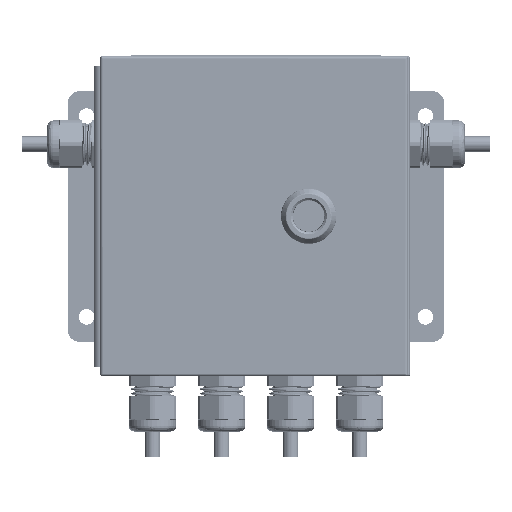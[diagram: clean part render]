
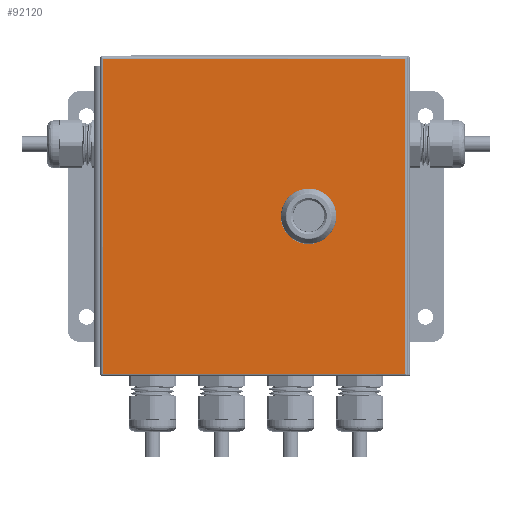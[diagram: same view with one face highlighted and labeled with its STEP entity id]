
A CAD part, top view. The second image highlights one B-rep face of the part: STEP entity #92120.
In plain terms, the highlighted planar face has unit normal (0, 0, 1).
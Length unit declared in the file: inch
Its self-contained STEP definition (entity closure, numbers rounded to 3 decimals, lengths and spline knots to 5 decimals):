
#7067 = EDGE_CURVE ( 'NONE', #46660, #320158, #34988, .T. ) ;
#11172 = LINE ( 'NONE', #134994, #61998 ) ;
#15342 = DIRECTION ( 'NONE',  ( 1., 0., 0. ) ) ;
#15706 = CARTESIAN_POINT ( 'NONE',  ( 1.483, 0.19957, 0. ) ) ;
#19851 = VECTOR ( 'NONE', #100422, 39.37008 ) ;
#22603 = CARTESIAN_POINT ( 'NONE',  ( 0.88793, 0.3955, 0. ) ) ;
#25659 = VERTEX_POINT ( 'NONE', #15706 ) ;
#29265 = AXIS2_PLACEMENT_3D ( 'NONE', #355505, #74623, #182291 ) ;
#32491 = LINE ( 'NONE', #460744, #19851 ) ;
#34662 = DIRECTION ( 'NONE',  ( 0., 0., 1. ) ) ;
#34988 = CIRCLE ( 'NONE', #94755, 0.443 ) ;
#35318 = ORIENTED_EDGE ( 'NONE', *, *, #286808, .F. ) ;
#39646 = CARTESIAN_POINT ( 'NONE',  ( 1.0875, 0., 0. ) ) ;
#43006 = AXIS2_PLACEMENT_3D ( 'NONE', #39646, #74748, #212862 ) ;
#44403 = CARTESIAN_POINT ( 'NONE',  ( 3.0095, 3.1345, 0. ) ) ;
#44766 = VERTEX_POINT ( 'NONE', #175414 ) ;
#46660 = VERTEX_POINT ( 'NONE', #91382 ) ;
#48999 = EDGE_CURVE ( 'NONE', #320158, #226410, #109613, .T. ) ;
#50461 = CARTESIAN_POINT ( 'NONE',  ( 0.88793, 0.3955, 0. ) ) ;
#61940 = VECTOR ( 'NONE', #329512, 39.37008 ) ;
#61998 = VECTOR ( 'NONE', #174700, 39.37008 ) ;
#62010 = PLANE ( 'NONE',  #301143 ) ;
#69780 = DIRECTION ( 'NONE',  ( 1., 0., 0. ) ) ;
#70704 = LINE ( 'NONE', #435661, #292743 ) ;
#72178 = CARTESIAN_POINT ( 'NONE',  ( 0.88793, -0.3955, 0. ) ) ;
#74623 = DIRECTION ( 'NONE',  ( 0., 0., 1. ) ) ;
#74748 = DIRECTION ( 'NONE',  ( 0., 0., 1. ) ) ;
#90213 = CARTESIAN_POINT ( 'NONE',  ( 0., 0., 0. ) ) ;
#91382 = CARTESIAN_POINT ( 'NONE',  ( 0.692, -0.19957, 0. ) ) ;
#92120 = ADVANCED_FACE ( 'NONE', ( #265767, #303182 ), #62010, .T. ) ;
#94755 = AXIS2_PLACEMENT_3D ( 'NONE', #327100, #34662, #69780 ) ;
#100422 = DIRECTION ( 'NONE',  ( 0., -1., 0. ) ) ;
#109613 = LINE ( 'NONE', #72178, #61940 ) ;
#125710 = LINE ( 'NONE', #22603, #221055 ) ;
#134994 = CARTESIAN_POINT ( 'NONE',  ( -3.0095, 3.1345, 0. ) ) ;
#135266 = DIRECTION ( 'NONE',  ( 0., 0., 1. ) ) ;
#139639 = CARTESIAN_POINT ( 'NONE',  ( 1.483, -0.19957, 0. ) ) ;
#143682 = CARTESIAN_POINT ( 'NONE',  ( 0.88793, -0.3955, 0. ) ) ;
#167939 = ORIENTED_EDGE ( 'NONE', *, *, #288378, .F. ) ;
#169163 = CARTESIAN_POINT ( 'NONE',  ( 3.0095, 3.1345, 0. ) ) ;
#174700 = DIRECTION ( 'NONE',  ( 0., -1., 0. ) ) ;
#175414 = CARTESIAN_POINT ( 'NONE',  ( -3.0095, 3.1345, 0. ) ) ;
#177755 = EDGE_CURVE ( 'NONE', #44766, #264938, #11172, .T. ) ;
#182291 = DIRECTION ( 'NONE',  ( 1., 0., 0. ) ) ;
#183881 = VERTEX_POINT ( 'NONE', #285091 ) ;
#193632 = AXIS2_PLACEMENT_3D ( 'NONE', #387963, #135266, #390285 ) ;
#197311 = VERTEX_POINT ( 'NONE', #44403 ) ;
#202760 = ORIENTED_EDGE ( 'NONE', *, *, #48999, .F. ) ;
#209843 = ORIENTED_EDGE ( 'NONE', *, *, #7067, .F. ) ;
#212862 = DIRECTION ( 'NONE',  ( 1., 0., 0. ) ) ;
#216625 = CARTESIAN_POINT ( 'NONE',  ( -3.0095, -3.1345, 0. ) ) ;
#221055 = VECTOR ( 'NONE', #338684, 39.37008 ) ;
#226410 = VERTEX_POINT ( 'NONE', #375508 ) ;
#238016 = ORIENTED_EDGE ( 'NONE', *, *, #456442, .F. ) ;
#245850 = EDGE_LOOP ( 'NONE', ( #259524, #283738, #385184, #375163 ) ) ;
#259524 = ORIENTED_EDGE ( 'NONE', *, *, #293813, .T. ) ;
#264938 = VERTEX_POINT ( 'NONE', #216625 ) ;
#265767 = FACE_BOUND ( 'NONE', #302037, .T. ) ;
#270702 = LINE ( 'NONE', #371465, #415140 ) ;
#272175 = DIRECTION ( 'NONE',  ( -1., 0., 0. ) ) ;
#274114 = VECTOR ( 'NONE', #360307, 39.37008 ) ;
#274795 = CIRCLE ( 'NONE', #43006, 0.443 ) ;
#279118 = LINE ( 'NONE', #169163, #387042 ) ;
#283738 = ORIENTED_EDGE ( 'NONE', *, *, #177755, .T. ) ;
#285091 = CARTESIAN_POINT ( 'NONE',  ( 3.0095, -3.1345, 0. ) ) ;
#286808 = EDGE_CURVE ( 'NONE', #348951, #411343, #125710, .T. ) ;
#287787 = CARTESIAN_POINT ( 'NONE',  ( 1.483, 0.19957, 0. ) ) ;
#288378 = EDGE_CURVE ( 'NONE', #447132, #46660, #32491, .T. ) ;
#290109 = LINE ( 'NONE', #287787, #274114 ) ;
#291449 = EDGE_CURVE ( 'NONE', #299353, #25659, #290109, .T. ) ;
#292743 = VECTOR ( 'NONE', #395948, 39.37008 ) ;
#293813 = EDGE_CURVE ( 'NONE', #197311, #44766, #279118, .T. ) ;
#299353 = VERTEX_POINT ( 'NONE', #139639 ) ;
#301143 = AXIS2_PLACEMENT_3D ( 'NONE', #90213, #415389, #15342 ) ;
#302037 = EDGE_LOOP ( 'NONE', ( #413824, #331423, #238016, #202760, #209843, #167939, #318962, #35318 ) ) ;
#303182 = FACE_OUTER_BOUND ( 'NONE', #245850, .T. ) ;
#312648 = CARTESIAN_POINT ( 'NONE',  ( 1.28707, 0.3955, 0. ) ) ;
#318962 = ORIENTED_EDGE ( 'NONE', *, *, #410987, .F. ) ;
#320158 = VERTEX_POINT ( 'NONE', #143682 ) ;
#327100 = CARTESIAN_POINT ( 'NONE',  ( 1.0875, 0., 0. ) ) ;
#329512 = DIRECTION ( 'NONE',  ( 1., 0., 0. ) ) ;
#331423 = ORIENTED_EDGE ( 'NONE', *, *, #291449, .F. ) ;
#338662 = DIRECTION ( 'NONE',  ( 0., 1., 0. ) ) ;
#338684 = DIRECTION ( 'NONE',  ( -1., 0., 0. ) ) ;
#343749 = EDGE_CURVE ( 'NONE', #25659, #348951, #274795, .T. ) ;
#348951 = VERTEX_POINT ( 'NONE', #312648 ) ;
#355505 = CARTESIAN_POINT ( 'NONE',  ( 1.0875, 0., 0. ) ) ;
#360307 = DIRECTION ( 'NONE',  ( 0., 1., 0. ) ) ;
#371465 = CARTESIAN_POINT ( 'NONE',  ( 3.0095, -3.1345, 0. ) ) ;
#375163 = ORIENTED_EDGE ( 'NONE', *, *, #446068, .T. ) ;
#375508 = CARTESIAN_POINT ( 'NONE',  ( 1.28707, -0.3955, 0. ) ) ;
#385184 = ORIENTED_EDGE ( 'NONE', *, *, #390773, .T. ) ;
#387042 = VECTOR ( 'NONE', #272175, 39.37008 ) ;
#387963 = CARTESIAN_POINT ( 'NONE',  ( 1.0875, 0., 0. ) ) ;
#390285 = DIRECTION ( 'NONE',  ( 1., 0., 0. ) ) ;
#390773 = EDGE_CURVE ( 'NONE', #264938, #183881, #70704, .T. ) ;
#395459 = CIRCLE ( 'NONE', #193632, 0.443 ) ;
#395948 = DIRECTION ( 'NONE',  ( 1., 0., 0. ) ) ;
#410987 = EDGE_CURVE ( 'NONE', #411343, #447132, #447829, .T. ) ;
#411343 = VERTEX_POINT ( 'NONE', #50461 ) ;
#413824 = ORIENTED_EDGE ( 'NONE', *, *, #343749, .F. ) ;
#415140 = VECTOR ( 'NONE', #338662, 39.37008 ) ;
#415389 = DIRECTION ( 'NONE',  ( 0., 0., 1. ) ) ;
#435661 = CARTESIAN_POINT ( 'NONE',  ( -3.0095, -3.1345, 0. ) ) ;
#446068 = EDGE_CURVE ( 'NONE', #183881, #197311, #270702, .T. ) ;
#447132 = VERTEX_POINT ( 'NONE', #452059 ) ;
#447829 = CIRCLE ( 'NONE', #29265, 0.443 ) ;
#452059 = CARTESIAN_POINT ( 'NONE',  ( 0.692, 0.19957, 0. ) ) ;
#456442 = EDGE_CURVE ( 'NONE', #226410, #299353, #395459, .T. ) ;
#460744 = CARTESIAN_POINT ( 'NONE',  ( 0.692, 0.19957, 0. ) ) ;
